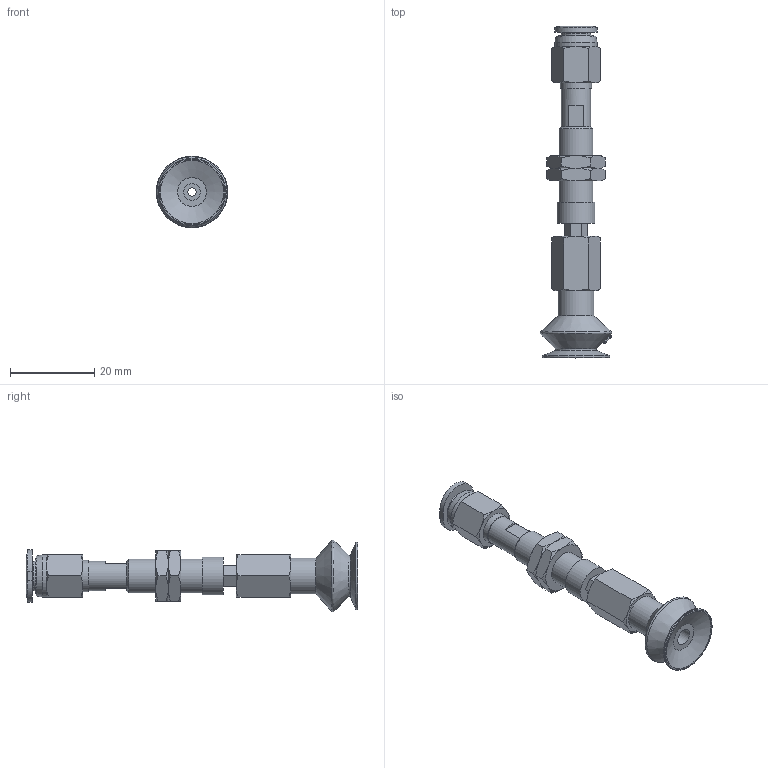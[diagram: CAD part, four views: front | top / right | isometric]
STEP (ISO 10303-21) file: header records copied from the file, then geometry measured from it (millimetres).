
FILE_DESCRIPTION(('STEP AP203'),'1');
FILE_NAME('-O.stp','2025-08-27T00:45:12',(' '),(' '),'Spatial InterOp 3D',' ',' ');
FILE_SCHEMA(('CONFIG_CONTROL_DESIGN'));
Length unit declared in the file: millimetre
Products named in the file (9): BNABPBTH-15A-3-※-O; ADAPTER; NAPATH-10A-3--M; Nut-15A-S-PB; NAPBTH-15A-3-FBODY; BPBG-15A-※; __27; BPBG-15A; PC-C_06-M5
Assembly tree (9 placements, depth 3):
  BNABPBTH-15A-3-※-O
    ADAPTER
    NAPATH-10A-3--M
    Nut-15A-S-PB  x2
    NAPBTH-15A-3-FBODY
    BPBG-15A-※
      __27
      BPBG-15A
    PC-C_06-M5
Bounding box: 17 x 78.98 x 17 mm (x, y, z)
Volume: 4476.5 mm3; surface area: 5831.4 mm2
Topology: 7 solids, 10 shells, 189 faces, 404 edges, 248 vertices
Faces by surface type: plane 71, cone 66, cylinder 24, torus 13, bspline 12, revolution 3
Full cylindrical faces by diameter (mm): 2 x2, 4 x5, 4.134 x1, 5 x1, 6 x2, 7 x2, 7.188 x2, 7.4 x1, 8 x1, 8.2 x1, 8.5 x1, 9 x1, 10 x1, 16 x1
Entity records: 6109 total; most frequent: CARTESIAN_POINT 2494, DIRECTION 638, ORIENTED_EDGE 582, EDGE_CURVE 293, AXIS2_PLACEMENT_3D 276, EDGE_LOOP 241, VERTEX_POINT 206, FACE_OUTER_BOUND 140
